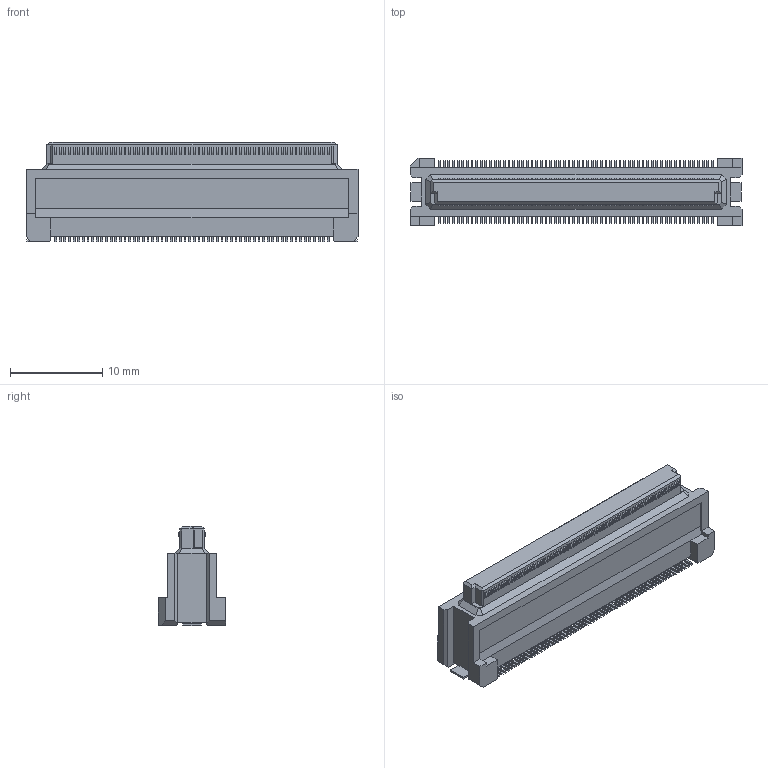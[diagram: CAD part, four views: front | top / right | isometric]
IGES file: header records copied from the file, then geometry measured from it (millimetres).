
Start section: Elysium IGES Interface
Global section: file name: C:\Users\1354\Desktop\DY10-120FS-2.igs; native system: Creo Elements/Direct Modeling 19.0F  14-Feb-2017; preprocessor: Creo Element/Direct IGES_3D V2.2; author: Unknown; organization: Unknown; date: 20171128.111103; units: millimetre
Bounding box: 35.9 x 7.3 x 10.73 mm (x, y, z)
Volume: 1472.8 mm3; surface area: 1467.2 mm2
Topology: 1 solids, 1 shells, 1716 faces, 4733 edges, 3142 vertices
Faces by surface type: bspline 1716
